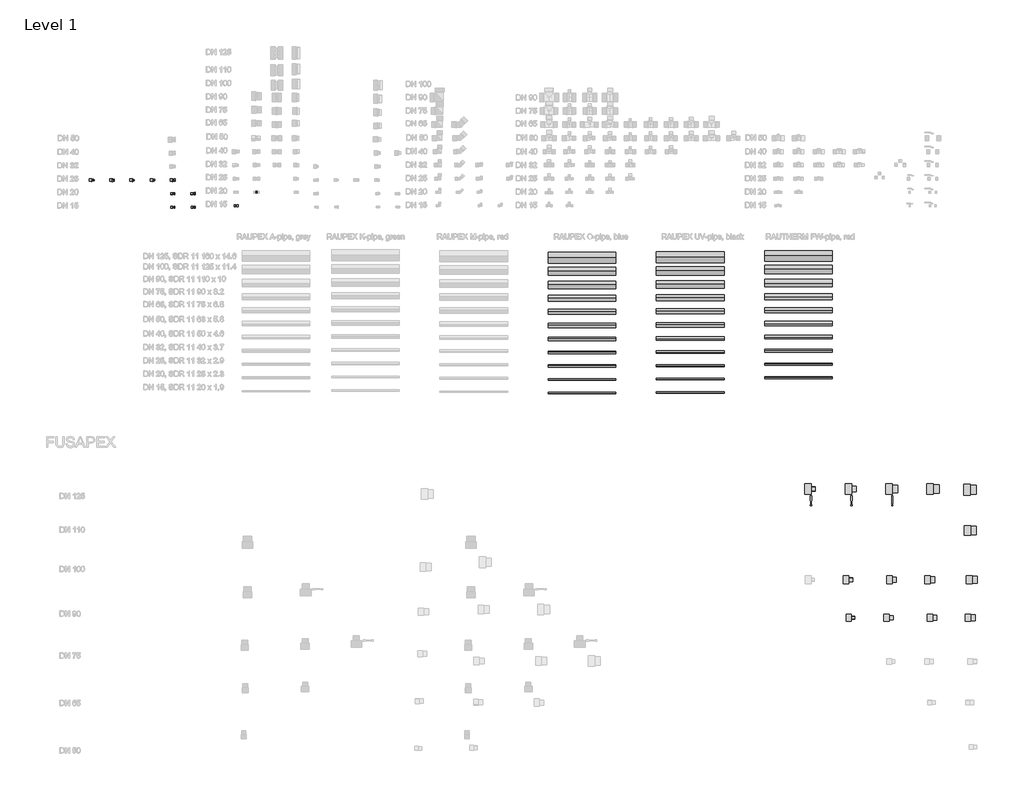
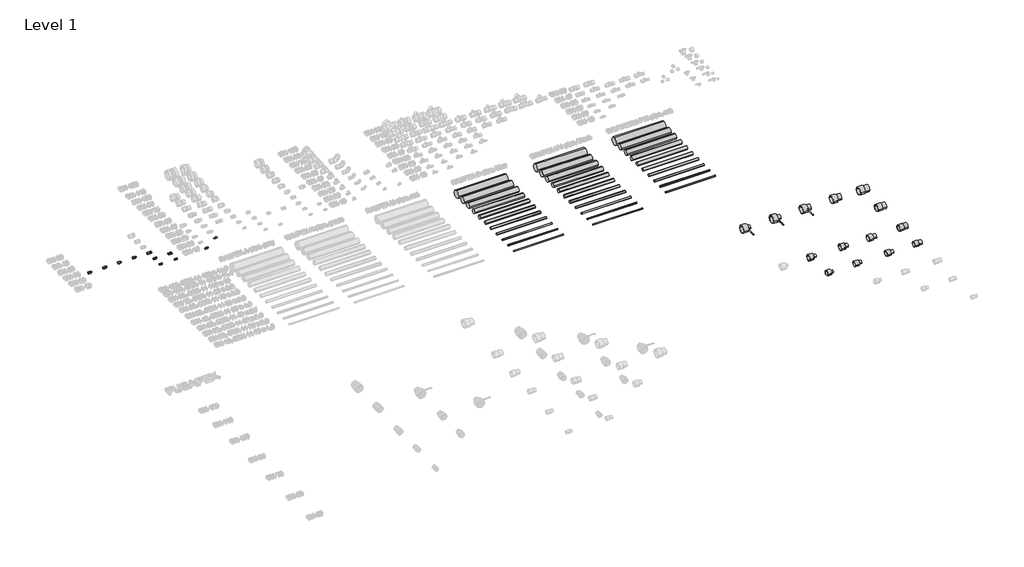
# One storey, part 2 of 16: 36 pipe fittings, 32 pipe segments.
"""IFC4 building model written with IfcOpenShell, lengths in millimetres."""

from ifc_helpers import new_model, si_unit, point, frame, frame_2d, origin, place, context, project, spatial, circle_curve, trimmed, segment, composite_curve, outline, extrude, transform, mapped, element, save
from components import adapter_taper_sdr11_24_lx_bbcb70a0, adapter_taper_sdr11_24_lx_71f6f1ea, adapter_taper_sdr11_60_lx_8a038b16, adapter_taper_sdr11_60_lx_c4b14268, adapter_with_union_nut_sdr11_a_union_nut_lx_fcff2328, adapter_with_union_nut_sdr11_a_union_nut_lx_60ab4ac3, adapter_with_union_nut_sdr11_a_union_nut_lx_61cef82c, adapter_with_union_nut_sdr11_a_union_nut_lx_7cd68c92, adapter_with_union_nut_sdr11_a_union_nut_lx_64a525c3, coupling_union_0bb615ef, coupling_union_24488497, r_bfb9c921, r_69f262a2, r_cca8e6ca, r_d1f8ca76, r_961efe01, r_9be9cc2b, r_697b0825, r_a358cfd3, r_c27c096f, r_0da97ad1, r_8749512e, r_4a3a0498, r_e99f7dad, r_1e384c2f, sleeve_lx_11_2e170aa1, sleeve_lx_11_3fcb8560, sleeve_lx_11_f19e3dbf

model = new_model("IFC4")

# Units and contexts
model_context = context("Model", 3, world=origin())
ifc_project = project(units=[si_unit("LENGTHUNIT", "METRE", prefix="MILLI")], contexts=[model_context])

# Site, building, storey
site = spatial("IfcSite", under=ifc_project)
building = spatial("IfcBuilding", under=site)
storey = spatial("IfcBuildingStorey", under=building, Name="Level 1", Elevation=0.0)

# Pipe fittings
placement = place(None, origin())
adapter_taper_sdr11_24_lx_shape = adapter_taper_sdr11_24_lx_bbcb70a0(model_context)
element("IfcPipeFitting", 1, ObjectType="Adapter taper SDR11 LX 24 Grad : Adapter taper SDR11 24 LX", at=placement, inside=storey, context=model_context, shape_type="MappedRepresentation", body=[
    mapped(adapter_taper_sdr11_24_lx_shape, transform((9376.3241815, 819.0534305, 0.0), x_axis=(1.0, 0.0, 0.0), y_axis=(0.0, 1.0, 0.0), z_axis=(0.0, 0.0, 1.0))),
])
adapter_taper_sdr11_24_lx_2_shape = adapter_taper_sdr11_24_lx_71f6f1ea(model_context)
element("IfcPipeFitting", 2, ObjectType="Adapter taper SDR11 LX 24 Grad : Adapter taper SDR11 24 LX", at=placement, inside=storey, context=model_context, shape_type="MappedRepresentation", body=[
    mapped(adapter_taper_sdr11_24_lx_2_shape, transform((9676.3241815, 819.0534305, 0.0), x_axis=(1.0, 0.0, 0.0), y_axis=(0.0, 1.0, 0.0), z_axis=(0.0, 0.0, 1.0))),
])
adapter_taper_sdr11_60_lx_shape = adapter_taper_sdr11_60_lx_8a038b16(model_context)
element("IfcPipeFitting", 3, ObjectType="Adapter taper SDR11 LX 60 Grad : Adapter taper SDR11 60 LX", at=placement, inside=storey, context=model_context, shape_type="MappedRepresentation", body=[
    mapped(adapter_taper_sdr11_60_lx_shape, transform((10276.3241815, 819.0534305, 0.0), x_axis=(1.0, 0.0, 0.0), y_axis=(0.0, 1.0, 0.0), z_axis=(0.0, 0.0, 1.0))),
])
adapter_taper_sdr11_60_lx_2_shape = adapter_taper_sdr11_60_lx_c4b14268(model_context)
element("IfcPipeFitting", 4, ObjectType="Adapter taper SDR11 LX 60 Grad : Adapter taper SDR11 60 LX", at=placement, inside=storey, context=model_context, shape_type="MappedRepresentation", body=[
    mapped(adapter_taper_sdr11_60_lx_2_shape, transform((9976.3241815, 819.0534305, 0.0), x_axis=(1.0, 0.0, 0.0), y_axis=(0.0, 1.0, 0.0), z_axis=(0.0, 0.0, 1.0))),
])
adapter_with_union_nut_sdr11_a_union_nut_lx_shape = adapter_with_union_nut_sdr11_a_union_nut_lx_fcff2328(model_context)
element("IfcPipeFitting", 5, ObjectType="Adapter with union nut SDR11 : A union nut LX", at=placement, inside=storey, context=model_context, shape_type="MappedRepresentation", body=[
    mapped(adapter_with_union_nut_sdr11_a_union_nut_lx_shape, transform((10876.3241815, 419.0534305, 0.0), x_axis=(1.0, 0.0, 0.0), y_axis=(0.0, 1.0, 0.0), z_axis=(0.0, 0.0, 1.0))),
])
adapter_with_union_nut_sdr11_a_union_nut_lx_2_shape = adapter_with_union_nut_sdr11_a_union_nut_lx_60ab4ac3(model_context)
element("IfcPipeFitting", 6, ObjectType="Adapter with union nut SDR11 : A union nut LX", at=placement, inside=storey, context=model_context, shape_type="MappedRepresentation", body=[
    mapped(adapter_with_union_nut_sdr11_a_union_nut_lx_2_shape, transform((10576.3241815, 419.0534305, 0.0), x_axis=(1.0, 0.0, 0.0), y_axis=(0.0, 1.0, 0.0), z_axis=(0.0, 0.0, 1.0))),
])
adapter_with_union_nut_sdr11_a_union_nut_lx_3_shape = adapter_with_union_nut_sdr11_a_union_nut_lx_61cef82c(model_context)
element("IfcPipeFitting", 7, ObjectType="Adapter with union nut SDR11 : A union nut LX", at=placement, inside=storey, context=model_context, shape_type="MappedRepresentation", body=[
    mapped(adapter_with_union_nut_sdr11_a_union_nut_lx_3_shape, transform((10576.3241815, 619.0534305, 0.0), x_axis=(1.0, 0.0, 0.0), y_axis=(0.0, 1.0, 0.0), z_axis=(0.0, 0.0, 1.0))),
])
adapter_with_union_nut_sdr11_a_union_nut_lx_4_shape = adapter_with_union_nut_sdr11_a_union_nut_lx_7cd68c92(model_context)
element("IfcPipeFitting", 8, ObjectType="Adapter with union nut SDR11 : A union nut LX", at=placement, inside=storey, context=model_context, shape_type="MappedRepresentation", body=[
    mapped(adapter_with_union_nut_sdr11_a_union_nut_lx_4_shape, transform((10876.3241815, 619.0534305, 0.0), x_axis=(1.0, 0.0, 0.0), y_axis=(0.0, 1.0, 0.0), z_axis=(0.0, 0.0, 1.0))),
])
adapter_with_union_nut_sdr11_a_union_nut_lx_5_shape = adapter_with_union_nut_sdr11_a_union_nut_lx_64a525c3(model_context)
element("IfcPipeFitting", 9, ObjectType="Adapter with union nut SDR11 : A union nut LX", at=placement, inside=storey, context=model_context, shape_type="MappedRepresentation", body=[
    mapped(adapter_with_union_nut_sdr11_a_union_nut_lx_5_shape, transform((10576.3241815, 819.0534305, 0.0), x_axis=(1.0, 0.0, 0.0), y_axis=(0.0, 1.0, 0.0), z_axis=(0.0, 0.0, 1.0))),
])
coupling_union_shape = coupling_union_0bb615ef(model_context)
element("IfcPipeFitting", 10, ObjectType="Coupling union : C EQ SDR11 LX", at=placement, inside=storey, context=model_context, shape_type="MappedRepresentation", body=[
    mapped(coupling_union_shape, transform((11503.1112925, 440.5489138, 0.0), x_axis=(1.0, 0.0, 0.0), y_axis=(0.0, 1.0, 0.0), z_axis=(0.0, 0.0, 1.0))),
])
coupling_union_2_shape = coupling_union_24488497(model_context)
element("IfcPipeFitting", 11, ObjectType="Coupling union : C EQ SDR11 LX", at=placement, inside=storey, context=model_context, shape_type="MappedRepresentation", body=[
    mapped(coupling_union_2_shape, transform((11803.1112925, 640.5489138, 0.0), x_axis=(1.0, 0.0, 0.0), y_axis=(0.0, 1.0, 0.0), z_axis=(0.0, 0.0, 1.0))),
])
r_shape = r_bfb9c921(model_context)
element("IfcPipeFitting", 12, ObjectType="FUSAPEX reducer : R", at=placement, inside=storey, context=model_context, shape_type="MappedRepresentation", body=[
    mapped(r_shape, transform((20593.244899, -5647.0116377, 0.0), x_axis=(1.0, 0.0, 0.0), y_axis=(0.0, 1.0, 0.0), z_axis=(0.0, 0.0, 1.0))),
])
r_2_shape = r_69f262a2(model_context)
element("IfcPipeFitting", 13, ObjectType="FUSAPEX reducer : R", at=placement, inside=storey, context=model_context, shape_type="MappedRepresentation", body=[
    mapped(r_2_shape, transform((21153.244899, -5647.0116377, 0.0), x_axis=(1.0, 0.0, 0.0), y_axis=(0.0, 1.0, 0.0), z_axis=(0.0, 0.0, 1.0))),
])
r_3_shape = r_cca8e6ca(model_context)
element("IfcPipeFitting", 14, ObjectType="FUSAPEX reducer : R", at=placement, inside=storey, context=model_context, shape_type="MappedRepresentation", body=[
    mapped(r_3_shape, transform((21793.244899, -5647.0116377, 0.0), x_axis=(1.0, 0.0, 0.0), y_axis=(0.0, 1.0, 0.0), z_axis=(0.0, 0.0, 1.0))),
])
r_4_shape = r_d1f8ca76(model_context)
element("IfcPipeFitting", 15, ObjectType="FUSAPEX reducer : R", at=placement, inside=storey, context=model_context, shape_type="MappedRepresentation", body=[
    mapped(r_4_shape, transform((22353.244899, -5647.0116377, 0.0), x_axis=(1.0, 0.0, 0.0), y_axis=(0.0, 1.0, 0.0), z_axis=(0.0, 0.0, 1.0))),
])
r_5_shape = r_961efe01(model_context)
element("IfcPipeFitting", 16, ObjectType="FUSAPEX reducer : R", at=placement, inside=storey, context=model_context, shape_type="MappedRepresentation", body=[
    mapped(r_5_shape, transform((20556.3378467, -5084.3927472, 0.0), x_axis=(1.0, 0.0, 0.0), y_axis=(0.0, 1.0, 0.0), z_axis=(0.0, 0.0, 1.0))),
])
r_6_shape = r_9be9cc2b(model_context)
element("IfcPipeFitting", 17, ObjectType="FUSAPEX reducer : R", at=placement, inside=storey, context=model_context, shape_type="MappedRepresentation", body=[
    mapped(r_6_shape, transform((21196.3378467, -5084.3927472, 0.0), x_axis=(1.0, 0.0, 0.0), y_axis=(0.0, 1.0, 0.0), z_axis=(0.0, 0.0, 1.0))),
])
r_7_shape = r_697b0825(model_context)
element("IfcPipeFitting", 18, ObjectType="FUSAPEX reducer : R", at=placement, inside=storey, context=model_context, shape_type="MappedRepresentation", body=[
    mapped(r_7_shape, transform((21756.3378467, -5084.3927472, 0.0), x_axis=(1.0, 0.0, 0.0), y_axis=(0.0, 1.0, 0.0), z_axis=(0.0, 0.0, 1.0))),
])
r_8_shape = r_a358cfd3(model_context)
element("IfcPipeFitting", 19, ObjectType="FUSAPEX reducer : R", at=placement, inside=storey, context=model_context, shape_type="MappedRepresentation", body=[
    mapped(r_8_shape, transform((22376.3378467, -5084.3927472, 0.0), x_axis=(1.0, 0.0, 0.0), y_axis=(0.0, -1.0, 0.0), z_axis=(0.0, 0.0, -1.0))),
])
r_9_shape = r_c27c096f(model_context)
element("IfcPipeFitting", 20, ObjectType="FUSAPEX reducer : R", at=placement, inside=storey, context=model_context, shape_type="MappedRepresentation", body=[
    mapped(r_9_shape, transform((22353.3151183, -4358.2546889, 0.0), x_axis=(1.0, 0.0, 0.0), y_axis=(0.0, 1.0, 0.0), z_axis=(0.0, 0.0, 1.0))),
])
r_10_shape = r_0da97ad1(model_context)
element("IfcPipeFitting", 21, ObjectType="FUSAPEX reducer : R", at=placement, inside=storey, context=model_context, shape_type="MappedRepresentation", body=[
    mapped(r_10_shape, transform((19996.3378467, -3744.3927472, 0.0), x_axis=(1.0, 0.0, 0.0), y_axis=(0.0, 1.0, 0.0), z_axis=(0.0, 0.0, 1.0))),
])
r_11_shape = r_8749512e(model_context)
element("IfcPipeFitting", 22, ObjectType="FUSAPEX reducer : R", at=placement, inside=storey, context=model_context, shape_type="MappedRepresentation", body=[
    mapped(r_11_shape, transform((20596.3378467, -3744.3927472, 0.0), x_axis=(1.0, 0.0, 0.0), y_axis=(0.0, 1.0, 0.0), z_axis=(0.0, 0.0, 1.0))),
])
r_12_shape = r_4a3a0498(model_context)
element("IfcPipeFitting", 23, ObjectType="FUSAPEX reducer : R", at=placement, inside=storey, context=model_context, shape_type="MappedRepresentation", body=[
    mapped(r_12_shape, transform((21196.3378467, -3744.3927472, 0.0), x_axis=(1.0, 0.0, 0.0), y_axis=(0.0, 1.0, 0.0), z_axis=(0.0, 0.0, 1.0))),
])
r_13_shape = r_e99f7dad(model_context)
element("IfcPipeFitting", 24, ObjectType="FUSAPEX reducer : R", at=placement, inside=storey, context=model_context, shape_type="MappedRepresentation", body=[
    mapped(r_13_shape, transform((21804.622118, -3742.6770184, 0.0), x_axis=(1.0, 0.0, 0.0), y_axis=(0.0, 1.0, 0.0), z_axis=(0.0, 0.0, 1.0))),
])
r_14_shape = r_1e384c2f(model_context)
element("IfcPipeFitting", 25, ObjectType="FUSAPEX reducer : R", at=placement, inside=storey, context=model_context, shape_type="MappedRepresentation", body=[
    mapped(r_14_shape, transform((22346.0987653, -3754.8236077, 0.0), x_axis=(1.0, 0.0, 0.0), y_axis=(0.0, 1.0, 0.0), z_axis=(0.0, 0.0, 1.0))),
])
sleeve_lx_11_shape = sleeve_lx_11_2e170aa1(model_context)
element("IfcPipeFitting", 26, ObjectType="Sleeve : LX 11", at=placement, inside=storey, context=model_context, shape_type="MappedRepresentation", body=[
    mapped(sleeve_lx_11_shape, transform((9332.6241815, 819.0534305, 0.0), x_axis=(1.0, 0.0, 0.0), y_axis=(0.0, 1.0, 0.0), z_axis=(0.0, 0.0, 1.0))),
])
element("IfcPipeFitting", 27, ObjectType="Sleeve : LX 11", at=placement, inside=storey, context=model_context, shape_type="MappedRepresentation", body=[
    mapped(sleeve_lx_11_shape, transform((9632.4241815, 819.0534305, 0.0), x_axis=(1.0, 0.0, 0.0), y_axis=(0.0, 1.0, 0.0), z_axis=(0.0, 0.0, 1.0))),
])
element("IfcPipeFitting", 28, ObjectType="Sleeve : LX 11", at=placement, inside=storey, context=model_context, shape_type="MappedRepresentation", body=[
    mapped(sleeve_lx_11_shape, transform((10232.4241815, 819.0534305, 0.0), x_axis=(1.0, 0.0, 0.0), y_axis=(0.0, 1.0, 0.0), z_axis=(0.0, 0.0, 1.0))),
])
element("IfcPipeFitting", 29, ObjectType="Sleeve : LX 11", at=placement, inside=storey, context=model_context, shape_type="MappedRepresentation", body=[
    mapped(sleeve_lx_11_shape, transform((9932.4241815, 819.0534305, 0.0), x_axis=(1.0, 0.0, 0.0), y_axis=(0.0, 1.0, 0.0), z_axis=(0.0, 0.0, 1.0))),
])
element("IfcPipeFitting", 30, ObjectType="Sleeve : LX 11", at=placement, inside=storey, context=model_context, shape_type="MappedRepresentation", body=[
    mapped(sleeve_lx_11_shape, transform((10525.3241815, 819.0534305, 0.0), x_axis=(1.0, 0.0, 0.0), y_axis=(0.0, 1.0, 0.0), z_axis=(0.0, 0.0, 1.0))),
])
sleeve_lx_11_2_shape = sleeve_lx_11_3fcb8560(model_context)
element("IfcPipeFitting", 31, ObjectType="Sleeve : LX 11", at=placement, inside=storey, context=model_context, shape_type="MappedRepresentation", body=[
    mapped(sleeve_lx_11_2_shape, transform((10538.7241815, 419.0534305, 0.0), x_axis=(1.0, 0.0, 0.0), y_axis=(0.0, 1.0, 0.0), z_axis=(0.0, 0.0, 1.0))),
])
element("IfcPipeFitting", 32, ObjectType="Sleeve : LX 11", at=placement, inside=storey, context=model_context, shape_type="MappedRepresentation", body=[
    mapped(sleeve_lx_11_2_shape, transform((10842.3241815, 419.0534305, 0.0), x_axis=(1.0, 0.0, 0.0), y_axis=(0.0, 1.0, 0.0), z_axis=(0.0, 0.0, 1.0))),
])
element("IfcPipeFitting", 33, ObjectType="Sleeve : LX 11", at=placement, inside=storey, context=model_context, shape_type="MappedRepresentation", body=[
    mapped(sleeve_lx_11_2_shape, transform((11472.1112925, 440.5489138, 0.0), x_axis=(1.0, 0.0, 0.0), y_axis=(0.0, 1.0, 0.0), z_axis=(0.0, 0.0, 1.0))),
])
element("IfcPipeFitting", 34, ObjectType="Sleeve : LX 11", at=placement, inside=storey, context=model_context, shape_type="MappedRepresentation", body=[
    mapped(sleeve_lx_11_2_shape, transform((11514.1112925, 440.5489138, 0.0), x_axis=(1.0, 0.0, 0.0), y_axis=(0.0, 1.0, 0.0), z_axis=(0.0, 0.0, 1.0))),
])
sleeve_lx_11_3_shape = sleeve_lx_11_f19e3dbf(model_context)
element("IfcPipeFitting", 35, ObjectType="Sleeve : LX 11", at=placement, inside=storey, context=model_context, shape_type="MappedRepresentation", body=[
    mapped(sleeve_lx_11_3_shape, transform((10534.5241815, 619.0534305, 0.0), x_axis=(1.0, 0.0, 0.0), y_axis=(0.0, 1.0, 0.0), z_axis=(0.0, 0.0, 1.0))),
])
element("IfcPipeFitting", 36, ObjectType="Sleeve : LX 11", at=placement, inside=storey, context=model_context, shape_type="MappedRepresentation", body=[
    mapped(sleeve_lx_11_3_shape, transform((10833.6241815, 619.0534305, 0.0), x_axis=(1.0, 0.0, 0.0), y_axis=(0.0, 1.0, 0.0), z_axis=(0.0, 0.0, 1.0))),
])

# Pipe segments
element("IfcPipeSegment", 37, ObjectType="RAUPEX-O Rohr, SDR11, blau bar", at=placement, inside=storey, context=model_context, shape_type="SweptSolid", body=[
    extrude(outline(composite_curve([segment(trimmed(circle_curve(frame_2d((-2326.9373535, 0.0)), 10.0), [point((-2336.9373535, 0.0))], [point((-2326.9373535, 10.0))], False, "CARTESIAN"), True, "CONTINUOUS"), segment(trimmed(circle_curve(frame_2d((-2326.9373535, 0.0)), 10.0), [point((-2326.9373535, 10.0))], [point((-2316.9373535, 0.0))], False, "CARTESIAN"), True, "CONTINUOUS"), segment(trimmed(circle_curve(frame_2d((-2326.9373535, 0.0)), 10.0), [point((-2316.9373535, 0.0))], [point((-2326.9373535, -10.0))], False, "CARTESIAN"), True, "CONTINUOUS"), segment(trimmed(circle_curve(frame_2d((-2326.9373535, 0.0)), 10.0), [point((-2326.9373535, -10.0))], [point((-2336.9373535, 0.0))], False, "CARTESIAN"), True, "CONTINUOUS")], self_intersect=False)), frame((16112.3595402, 0.0, 0.0), z_axis=(1.0, 0.0, 0.0), x_axis=(0.0, 1.0, 0.0)), (0.0, 0.0, 1.0), 1000.0),
])
element("IfcPipeSegment", 38, ObjectType="RAUPEX-O Rohr, SDR11, blau bar", at=placement, inside=storey, context=model_context, shape_type="SweptSolid", body=[
    extrude(outline(composite_curve([segment(trimmed(circle_curve(frame_2d((-2126.9373535, 0.0)), 12.5), [point((-2139.4373535, 0.0))], [point((-2126.9373535, 12.5))], False, "CARTESIAN"), True, "CONTINUOUS"), segment(trimmed(circle_curve(frame_2d((-2126.9373535, 0.0)), 12.5), [point((-2126.9373535, 12.5))], [point((-2114.4373535, 0.0))], False, "CARTESIAN"), True, "CONTINUOUS"), segment(trimmed(circle_curve(frame_2d((-2126.9373535, 0.0)), 12.5), [point((-2114.4373535, 0.0))], [point((-2126.9373535, -12.5))], False, "CARTESIAN"), True, "CONTINUOUS"), segment(trimmed(circle_curve(frame_2d((-2126.9373535, 0.0)), 12.5), [point((-2126.9373535, -12.5))], [point((-2139.4373535, 0.0))], False, "CARTESIAN"), True, "CONTINUOUS")], self_intersect=False)), frame((16112.3595402, 0.0, 0.0), z_axis=(1.0, 0.0, 0.0), x_axis=(0.0, 1.0, 0.0)), (0.0, 0.0, 1.0), 1000.0),
])
element("IfcPipeSegment", 39, ObjectType="RAUPEX-O Rohr, SDR11, blau bar", at=placement, inside=storey, context=model_context, shape_type="SweptSolid", body=[
    extrude(outline(composite_curve([segment(trimmed(circle_curve(frame_2d((-1926.9373535, 0.0)), 16.0), [point((-1942.9373535, 0.0))], [point((-1926.9373535, 16.0))], False, "CARTESIAN"), True, "CONTINUOUS"), segment(trimmed(circle_curve(frame_2d((-1926.9373535, 0.0)), 16.0), [point((-1926.9373535, 16.0))], [point((-1910.9373535, 0.0))], False, "CARTESIAN"), True, "CONTINUOUS"), segment(trimmed(circle_curve(frame_2d((-1926.9373535, 0.0)), 16.0), [point((-1910.9373535, 0.0))], [point((-1926.9373535, -16.0))], False, "CARTESIAN"), True, "CONTINUOUS"), segment(trimmed(circle_curve(frame_2d((-1926.9373535, 0.0)), 16.0), [point((-1926.9373535, -16.0))], [point((-1942.9373535, 0.0))], False, "CARTESIAN"), True, "CONTINUOUS")], self_intersect=False)), frame((16112.3595402, 0.0, 0.0), z_axis=(1.0, 0.0, 0.0), x_axis=(0.0, 1.0, 0.0)), (0.0, 0.0, 1.0), 1000.0),
])
element("IfcPipeSegment", 40, ObjectType="RAUPEX-O Rohr, SDR11, blau bar", at=placement, inside=storey, context=model_context, shape_type="SweptSolid", body=[
    extrude(outline(composite_curve([segment(trimmed(circle_curve(frame_2d((-1726.9373535, 0.0)), 20.0), [point((-1746.9373535, 0.0))], [point((-1726.9373535, 20.0))], False, "CARTESIAN"), True, "CONTINUOUS"), segment(trimmed(circle_curve(frame_2d((-1726.9373535, 0.0)), 20.0), [point((-1726.9373535, 20.0))], [point((-1706.9373535, 0.0))], False, "CARTESIAN"), True, "CONTINUOUS"), segment(trimmed(circle_curve(frame_2d((-1726.9373535, 0.0)), 20.0), [point((-1706.9373535, 0.0))], [point((-1726.9373535, -20.0))], False, "CARTESIAN"), True, "CONTINUOUS"), segment(trimmed(circle_curve(frame_2d((-1726.9373535, 0.0)), 20.0), [point((-1726.9373535, -20.0))], [point((-1746.9373535, 0.0))], False, "CARTESIAN"), True, "CONTINUOUS")], self_intersect=False)), frame((16112.3595402, 0.0, 0.0), z_axis=(1.0, 0.0, 0.0), x_axis=(0.0, 1.0, 0.0)), (0.0, 0.0, 1.0), 1000.0),
])
element("IfcPipeSegment", 41, ObjectType="RAUPEX-O Rohr, SDR11, blau bar", at=placement, inside=storey, context=model_context, shape_type="SweptSolid", body=[
    extrude(outline(composite_curve([segment(trimmed(circle_curve(frame_2d((-1526.9373535, 0.0)), 25.0), [point((-1551.9373535, 0.0))], [point((-1526.9373535, 25.0))], False, "CARTESIAN"), True, "CONTINUOUS"), segment(trimmed(circle_curve(frame_2d((-1526.9373535, 0.0)), 25.0), [point((-1526.9373535, 25.0))], [point((-1501.9373535, 0.0))], False, "CARTESIAN"), True, "CONTINUOUS"), segment(trimmed(circle_curve(frame_2d((-1526.9373535, 0.0)), 25.0), [point((-1501.9373535, 0.0))], [point((-1526.9373535, -25.0))], False, "CARTESIAN"), True, "CONTINUOUS"), segment(trimmed(circle_curve(frame_2d((-1526.9373535, 0.0)), 25.0), [point((-1526.9373535, -25.0))], [point((-1551.9373535, 0.0))], False, "CARTESIAN"), True, "CONTINUOUS")], self_intersect=False)), frame((16112.3595402, 0.0, 0.0), z_axis=(1.0, 0.0, 0.0), x_axis=(0.0, 1.0, 0.0)), (0.0, 0.0, 1.0), 1000.0),
])
element("IfcPipeSegment", 42, ObjectType="RAUPEX-O Rohr, SDR11, blau bar", at=placement, inside=storey, context=model_context, shape_type="SweptSolid", body=[
    extrude(outline(composite_curve([segment(trimmed(circle_curve(frame_2d((-1326.9373535, 0.0)), 31.5), [point((-1358.4373535, 0.0))], [point((-1326.9373535, 31.5))], False, "CARTESIAN"), True, "CONTINUOUS"), segment(trimmed(circle_curve(frame_2d((-1326.9373535, 0.0)), 31.5), [point((-1326.9373535, 31.5))], [point((-1295.4373535, 0.0))], False, "CARTESIAN"), True, "CONTINUOUS"), segment(trimmed(circle_curve(frame_2d((-1326.9373535, 0.0)), 31.5), [point((-1295.4373535, 0.0))], [point((-1326.9373535, -31.5))], False, "CARTESIAN"), True, "CONTINUOUS"), segment(trimmed(circle_curve(frame_2d((-1326.9373535, 0.0)), 31.5), [point((-1326.9373535, -31.5))], [point((-1358.4373535, 0.0))], False, "CARTESIAN"), True, "CONTINUOUS")], self_intersect=False)), frame((16112.3595402, 0.0, 0.0), z_axis=(1.0, 0.0, 0.0), x_axis=(0.0, 1.0, 0.0)), (0.0, 0.0, 1.0), 1000.0),
])
element("IfcPipeSegment", 43, ObjectType="RAUPEX-O Rohr, SDR11, blau bar", at=placement, inside=storey, context=model_context, shape_type="SweptSolid", body=[
    extrude(outline(composite_curve([segment(trimmed(circle_curve(frame_2d((-1126.9373535, 0.0)), 37.5), [point((-1164.4373535, 0.0))], [point((-1126.9373535, 37.5))], False, "CARTESIAN"), True, "CONTINUOUS"), segment(trimmed(circle_curve(frame_2d((-1126.9373535, 0.0)), 37.5), [point((-1126.9373535, 37.5))], [point((-1089.4373535, 0.0))], False, "CARTESIAN"), True, "CONTINUOUS"), segment(trimmed(circle_curve(frame_2d((-1126.9373535, 0.0)), 37.5), [point((-1089.4373535, 0.0))], [point((-1126.9373535, -37.5))], False, "CARTESIAN"), True, "CONTINUOUS"), segment(trimmed(circle_curve(frame_2d((-1126.9373535, 0.0)), 37.5), [point((-1126.9373535, -37.5))], [point((-1164.4373535, 0.0))], False, "CARTESIAN"), True, "CONTINUOUS")], self_intersect=False)), frame((16112.3595402, 0.0, 0.0), z_axis=(1.0, 0.0, 0.0), x_axis=(0.0, 1.0, 0.0)), (0.0, 0.0, 1.0), 1000.0),
])
element("IfcPipeSegment", 44, ObjectType="RAUPEX-O Rohr, SDR11, blau bar", at=placement, inside=storey, context=model_context, shape_type="SweptSolid", body=[
    extrude(outline(composite_curve([segment(trimmed(circle_curve(frame_2d((-926.9373535, 0.0)), 45.0), [point((-971.9373535, 0.0))], [point((-926.9373535, 45.0))], False, "CARTESIAN"), True, "CONTINUOUS"), segment(trimmed(circle_curve(frame_2d((-926.9373535, 0.0)), 45.0), [point((-926.9373535, 45.0))], [point((-881.9373535, 0.0))], False, "CARTESIAN"), True, "CONTINUOUS"), segment(trimmed(circle_curve(frame_2d((-926.9373535, 0.0)), 45.0), [point((-881.9373535, 0.0))], [point((-926.9373535, -45.0))], False, "CARTESIAN"), True, "CONTINUOUS"), segment(trimmed(circle_curve(frame_2d((-926.9373535, 0.0)), 45.0), [point((-926.9373535, -45.0))], [point((-971.9373535, 0.0))], False, "CARTESIAN"), True, "CONTINUOUS")], self_intersect=False)), frame((16112.3595402, 0.0, 0.0), z_axis=(1.0, 0.0, 0.0), x_axis=(0.0, 1.0, 0.0)), (0.0, 0.0, 1.0), 1000.0),
])
element("IfcPipeSegment", 45, ObjectType="RAUPEX-O Rohr, SDR11, blau bar", at=placement, inside=storey, context=model_context, shape_type="SweptSolid", body=[
    extrude(outline(composite_curve([segment(trimmed(circle_curve(frame_2d((-726.9373535, 0.0)), 55.0), [point((-781.9373535, 0.0))], [point((-726.9373535, 55.0))], False, "CARTESIAN"), True, "CONTINUOUS"), segment(trimmed(circle_curve(frame_2d((-726.9373535, 0.0)), 55.0), [point((-726.9373535, 55.0))], [point((-671.9373535, 0.0))], False, "CARTESIAN"), True, "CONTINUOUS"), segment(trimmed(circle_curve(frame_2d((-726.9373535, 0.0)), 55.0), [point((-671.9373535, 0.0))], [point((-726.9373535, -55.0))], False, "CARTESIAN"), True, "CONTINUOUS"), segment(trimmed(circle_curve(frame_2d((-726.9373535, 0.0)), 55.0), [point((-726.9373535, -55.0))], [point((-781.9373535, 0.0))], False, "CARTESIAN"), True, "CONTINUOUS")], self_intersect=False)), frame((16112.3595402, 0.0, 0.0), z_axis=(1.0, 0.0, 0.0), x_axis=(0.0, 1.0, 0.0)), (0.0, 0.0, 1.0), 1000.0),
])
element("IfcPipeSegment", 46, ObjectType="RAUPEX-O Rohr, SDR11, blau bar", at=placement, inside=storey, context=model_context, shape_type="SweptSolid", body=[
    extrude(outline(composite_curve([segment(trimmed(circle_curve(frame_2d((-526.9373535, 0.0)), 62.5), [point((-589.4373535, 0.0))], [point((-526.9373535, 62.5))], False, "CARTESIAN"), True, "CONTINUOUS"), segment(trimmed(circle_curve(frame_2d((-526.9373535, 0.0)), 62.5), [point((-526.9373535, 62.5))], [point((-464.4373535, 0.0))], False, "CARTESIAN"), True, "CONTINUOUS"), segment(trimmed(circle_curve(frame_2d((-526.9373535, 0.0)), 62.5), [point((-464.4373535, 0.0))], [point((-526.9373535, -62.5))], False, "CARTESIAN"), True, "CONTINUOUS"), segment(trimmed(circle_curve(frame_2d((-526.9373535, 0.0)), 62.5), [point((-526.9373535, -62.5))], [point((-589.4373535, 0.0))], False, "CARTESIAN"), True, "CONTINUOUS")], self_intersect=False)), frame((16112.3595402, 0.0, 0.0), z_axis=(1.0, 0.0, 0.0), x_axis=(0.0, 1.0, 0.0)), (0.0, 0.0, 1.0), 1000.0),
])
element("IfcPipeSegment", 47, ObjectType="RAUPEX-O Rohr, SDR11, blau bar", at=placement, inside=storey, context=model_context, shape_type="SweptSolid", body=[
    extrude(outline(composite_curve([segment(trimmed(circle_curve(frame_2d((-326.9373535, 0.0)), 80.0), [point((-406.9373535, 0.0))], [point((-326.9373535, 80.0))], False, "CARTESIAN"), True, "CONTINUOUS"), segment(trimmed(circle_curve(frame_2d((-326.9373535, 0.0)), 80.0), [point((-326.9373535, 80.0))], [point((-246.9373535, 0.0))], False, "CARTESIAN"), True, "CONTINUOUS"), segment(trimmed(circle_curve(frame_2d((-326.9373535, 0.0)), 80.0), [point((-246.9373535, 0.0))], [point((-326.9373535, -80.0))], False, "CARTESIAN"), True, "CONTINUOUS"), segment(trimmed(circle_curve(frame_2d((-326.9373535, 0.0)), 80.0), [point((-326.9373535, -80.0))], [point((-406.9373535, 0.0))], False, "CARTESIAN"), True, "CONTINUOUS")], self_intersect=False)), frame((16112.3595402, 0.0, 0.0), z_axis=(1.0, 0.0, 0.0), x_axis=(0.0, 1.0, 0.0)), (0.0, 0.0, 1.0), 1000.0),
])
element("IfcPipeSegment", 48, ObjectType="RAUPEX-UV Rohr, SDR11, schwarz bar", at=placement, inside=storey, context=model_context, shape_type="SweptSolid", body=[
    extrude(outline(composite_curve([segment(trimmed(circle_curve(frame_2d((-2320.9373535, 0.0)), 10.0), [point((-2330.9373535, 0.0))], [point((-2320.9373535, 10.0))], False, "CARTESIAN"), True, "CONTINUOUS"), segment(trimmed(circle_curve(frame_2d((-2320.9373535, 0.0)), 10.0), [point((-2320.9373535, 10.0))], [point((-2310.9373535, 0.0))], False, "CARTESIAN"), True, "CONTINUOUS"), segment(trimmed(circle_curve(frame_2d((-2320.9373535, 0.0)), 10.0), [point((-2310.9373535, 0.0))], [point((-2320.9373535, -10.0))], False, "CARTESIAN"), True, "CONTINUOUS"), segment(trimmed(circle_curve(frame_2d((-2320.9373535, 0.0)), 10.0), [point((-2320.9373535, -10.0))], [point((-2330.9373535, 0.0))], False, "CARTESIAN"), True, "CONTINUOUS")], self_intersect=False)), frame((17712.3595402, 0.0, 0.0), z_axis=(1.0, 0.0, 0.0), x_axis=(0.0, 1.0, 0.0)), (0.0, 0.0, 1.0), 1000.0),
])
element("IfcPipeSegment", 49, ObjectType="RAUPEX-UV Rohr, SDR11, schwarz bar", at=placement, inside=storey, context=model_context, shape_type="SweptSolid", body=[
    extrude(outline(composite_curve([segment(trimmed(circle_curve(frame_2d((-2120.9373535, 0.0)), 12.5), [point((-2133.4373535, 0.0))], [point((-2120.9373535, 12.5))], False, "CARTESIAN"), True, "CONTINUOUS"), segment(trimmed(circle_curve(frame_2d((-2120.9373535, 0.0)), 12.5), [point((-2120.9373535, 12.5))], [point((-2108.4373535, 0.0))], False, "CARTESIAN"), True, "CONTINUOUS"), segment(trimmed(circle_curve(frame_2d((-2120.9373535, 0.0)), 12.5), [point((-2108.4373535, 0.0))], [point((-2120.9373535, -12.5))], False, "CARTESIAN"), True, "CONTINUOUS"), segment(trimmed(circle_curve(frame_2d((-2120.9373535, 0.0)), 12.5), [point((-2120.9373535, -12.5))], [point((-2133.4373535, 0.0))], False, "CARTESIAN"), True, "CONTINUOUS")], self_intersect=False)), frame((17712.3595402, 0.0, 0.0), z_axis=(1.0, 0.0, 0.0), x_axis=(0.0, 1.0, 0.0)), (0.0, 0.0, 1.0), 1000.0),
])
element("IfcPipeSegment", 50, ObjectType="RAUPEX-UV Rohr, SDR11, schwarz bar", at=placement, inside=storey, context=model_context, shape_type="SweptSolid", body=[
    extrude(outline(composite_curve([segment(trimmed(circle_curve(frame_2d((-1920.9373535, 0.0)), 16.0), [point((-1936.9373535, 0.0))], [point((-1920.9373535, 16.0))], False, "CARTESIAN"), True, "CONTINUOUS"), segment(trimmed(circle_curve(frame_2d((-1920.9373535, 0.0)), 16.0), [point((-1920.9373535, 16.0))], [point((-1904.9373535, 0.0))], False, "CARTESIAN"), True, "CONTINUOUS"), segment(trimmed(circle_curve(frame_2d((-1920.9373535, 0.0)), 16.0), [point((-1904.9373535, 0.0))], [point((-1920.9373535, -16.0))], False, "CARTESIAN"), True, "CONTINUOUS"), segment(trimmed(circle_curve(frame_2d((-1920.9373535, 0.0)), 16.0), [point((-1920.9373535, -16.0))], [point((-1936.9373535, 0.0))], False, "CARTESIAN"), True, "CONTINUOUS")], self_intersect=False)), frame((17712.3595402, 0.0, 0.0), z_axis=(1.0, 0.0, 0.0), x_axis=(0.0, 1.0, 0.0)), (0.0, 0.0, 1.0), 1000.0),
])
element("IfcPipeSegment", 51, ObjectType="RAUPEX-UV Rohr, SDR11, schwarz bar", at=placement, inside=storey, context=model_context, shape_type="SweptSolid", body=[
    extrude(outline(composite_curve([segment(trimmed(circle_curve(frame_2d((-1720.9373535, 0.0)), 20.0), [point((-1740.9373535, 0.0))], [point((-1720.9373535, 20.0))], False, "CARTESIAN"), True, "CONTINUOUS"), segment(trimmed(circle_curve(frame_2d((-1720.9373535, 0.0)), 20.0), [point((-1720.9373535, 20.0))], [point((-1700.9373535, 0.0))], False, "CARTESIAN"), True, "CONTINUOUS"), segment(trimmed(circle_curve(frame_2d((-1720.9373535, 0.0)), 20.0), [point((-1700.9373535, 0.0))], [point((-1720.9373535, -20.0))], False, "CARTESIAN"), True, "CONTINUOUS"), segment(trimmed(circle_curve(frame_2d((-1720.9373535, 0.0)), 20.0), [point((-1720.9373535, -20.0))], [point((-1740.9373535, 0.0))], False, "CARTESIAN"), True, "CONTINUOUS")], self_intersect=False)), frame((17712.3595402, 0.0, 0.0), z_axis=(1.0, 0.0, 0.0), x_axis=(0.0, 1.0, 0.0)), (0.0, 0.0, 1.0), 1000.0),
])
element("IfcPipeSegment", 52, ObjectType="RAUPEX-UV Rohr, SDR11, schwarz bar", at=placement, inside=storey, context=model_context, shape_type="SweptSolid", body=[
    extrude(outline(composite_curve([segment(trimmed(circle_curve(frame_2d((-1520.9373535, 0.0)), 25.0), [point((-1545.9373535, 0.0))], [point((-1520.9373535, 25.0))], False, "CARTESIAN"), True, "CONTINUOUS"), segment(trimmed(circle_curve(frame_2d((-1520.9373535, 0.0)), 25.0), [point((-1520.9373535, 25.0))], [point((-1495.9373535, 0.0))], False, "CARTESIAN"), True, "CONTINUOUS"), segment(trimmed(circle_curve(frame_2d((-1520.9373535, 0.0)), 25.0), [point((-1495.9373535, 0.0))], [point((-1520.9373535, -25.0))], False, "CARTESIAN"), True, "CONTINUOUS"), segment(trimmed(circle_curve(frame_2d((-1520.9373535, 0.0)), 25.0), [point((-1520.9373535, -25.0))], [point((-1545.9373535, 0.0))], False, "CARTESIAN"), True, "CONTINUOUS")], self_intersect=False)), frame((17712.3595402, 0.0, 0.0), z_axis=(1.0, 0.0, 0.0), x_axis=(0.0, 1.0, 0.0)), (0.0, 0.0, 1.0), 1000.0),
])
element("IfcPipeSegment", 53, ObjectType="RAUPEX-UV Rohr, SDR11, schwarz bar", at=placement, inside=storey, context=model_context, shape_type="SweptSolid", body=[
    extrude(outline(composite_curve([segment(trimmed(circle_curve(frame_2d((-1320.9373535, 0.0)), 31.5), [point((-1352.4373535, 0.0))], [point((-1320.9373535, 31.5))], False, "CARTESIAN"), True, "CONTINUOUS"), segment(trimmed(circle_curve(frame_2d((-1320.9373535, 0.0)), 31.5), [point((-1320.9373535, 31.5))], [point((-1289.4373535, 0.0))], False, "CARTESIAN"), True, "CONTINUOUS"), segment(trimmed(circle_curve(frame_2d((-1320.9373535, 0.0)), 31.5), [point((-1289.4373535, 0.0))], [point((-1320.9373535, -31.5))], False, "CARTESIAN"), True, "CONTINUOUS"), segment(trimmed(circle_curve(frame_2d((-1320.9373535, 0.0)), 31.5), [point((-1320.9373535, -31.5))], [point((-1352.4373535, 0.0))], False, "CARTESIAN"), True, "CONTINUOUS")], self_intersect=False)), frame((17712.3595402, 0.0, 0.0), z_axis=(1.0, 0.0, 0.0), x_axis=(0.0, 1.0, 0.0)), (0.0, 0.0, 1.0), 1000.0),
])
element("IfcPipeSegment", 54, ObjectType="RAUPEX-UV Rohr, SDR11, schwarz bar", at=placement, inside=storey, context=model_context, shape_type="SweptSolid", body=[
    extrude(outline(composite_curve([segment(trimmed(circle_curve(frame_2d((-1120.9373535, 0.0)), 37.5), [point((-1158.4373535, 0.0))], [point((-1120.9373535, 37.5))], False, "CARTESIAN"), True, "CONTINUOUS"), segment(trimmed(circle_curve(frame_2d((-1120.9373535, 0.0)), 37.5), [point((-1120.9373535, 37.5))], [point((-1083.4373535, 0.0))], False, "CARTESIAN"), True, "CONTINUOUS"), segment(trimmed(circle_curve(frame_2d((-1120.9373535, 0.0)), 37.5), [point((-1083.4373535, 0.0))], [point((-1120.9373535, -37.5))], False, "CARTESIAN"), True, "CONTINUOUS"), segment(trimmed(circle_curve(frame_2d((-1120.9373535, 0.0)), 37.5), [point((-1120.9373535, -37.5))], [point((-1158.4373535, 0.0))], False, "CARTESIAN"), True, "CONTINUOUS")], self_intersect=False)), frame((17712.3595402, 0.0, 0.0), z_axis=(1.0, 0.0, 0.0), x_axis=(0.0, 1.0, 0.0)), (0.0, 0.0, 1.0), 1000.0),
])
element("IfcPipeSegment", 55, ObjectType="RAUPEX-UV Rohr, SDR11, schwarz bar", at=placement, inside=storey, context=model_context, shape_type="SweptSolid", body=[
    extrude(outline(composite_curve([segment(trimmed(circle_curve(frame_2d((-920.9373535, 0.0)), 45.0), [point((-965.9373535, 0.0))], [point((-920.9373535, 45.0))], False, "CARTESIAN"), True, "CONTINUOUS"), segment(trimmed(circle_curve(frame_2d((-920.9373535, 0.0)), 45.0), [point((-920.9373535, 45.0))], [point((-875.9373535, 0.0))], False, "CARTESIAN"), True, "CONTINUOUS"), segment(trimmed(circle_curve(frame_2d((-920.9373535, 0.0)), 45.0), [point((-875.9373535, 0.0))], [point((-920.9373535, -45.0))], False, "CARTESIAN"), True, "CONTINUOUS"), segment(trimmed(circle_curve(frame_2d((-920.9373535, 0.0)), 45.0), [point((-920.9373535, -45.0))], [point((-965.9373535, 0.0))], False, "CARTESIAN"), True, "CONTINUOUS")], self_intersect=False)), frame((17712.3595402, 0.0, 0.0), z_axis=(1.0, 0.0, 0.0), x_axis=(0.0, 1.0, 0.0)), (0.0, 0.0, 1.0), 1000.0),
])
element("IfcPipeSegment", 56, ObjectType="RAUPEX-UV Rohr, SDR11, schwarz bar", at=placement, inside=storey, context=model_context, shape_type="SweptSolid", body=[
    extrude(outline(composite_curve([segment(trimmed(circle_curve(frame_2d((-720.9373535, 0.0)), 55.0), [point((-775.9373535, 0.0))], [point((-720.9373535, 55.0))], False, "CARTESIAN"), True, "CONTINUOUS"), segment(trimmed(circle_curve(frame_2d((-720.9373535, 0.0)), 55.0), [point((-720.9373535, 55.0))], [point((-665.9373535, 0.0))], False, "CARTESIAN"), True, "CONTINUOUS"), segment(trimmed(circle_curve(frame_2d((-720.9373535, 0.0)), 55.0), [point((-665.9373535, 0.0))], [point((-720.9373535, -55.0))], False, "CARTESIAN"), True, "CONTINUOUS"), segment(trimmed(circle_curve(frame_2d((-720.9373535, 0.0)), 55.0), [point((-720.9373535, -55.0))], [point((-775.9373535, 0.0))], False, "CARTESIAN"), True, "CONTINUOUS")], self_intersect=False)), frame((17712.3595402, 0.0, 0.0), z_axis=(1.0, 0.0, 0.0), x_axis=(0.0, 1.0, 0.0)), (0.0, 0.0, 1.0), 1000.0),
])
element("IfcPipeSegment", 57, ObjectType="RAUPEX-UV Rohr, SDR11, schwarz bar", at=placement, inside=storey, context=model_context, shape_type="SweptSolid", body=[
    extrude(outline(composite_curve([segment(trimmed(circle_curve(frame_2d((-520.9373535, 0.0)), 62.5), [point((-583.4373535, 0.0))], [point((-520.9373535, 62.5))], False, "CARTESIAN"), True, "CONTINUOUS"), segment(trimmed(circle_curve(frame_2d((-520.9373535, 0.0)), 62.5), [point((-520.9373535, 62.5))], [point((-458.4373535, 0.0))], False, "CARTESIAN"), True, "CONTINUOUS"), segment(trimmed(circle_curve(frame_2d((-520.9373535, 0.0)), 62.5), [point((-458.4373535, 0.0))], [point((-520.9373535, -62.5))], False, "CARTESIAN"), True, "CONTINUOUS"), segment(trimmed(circle_curve(frame_2d((-520.9373535, 0.0)), 62.5), [point((-520.9373535, -62.5))], [point((-583.4373535, 0.0))], False, "CARTESIAN"), True, "CONTINUOUS")], self_intersect=False)), frame((17712.3595402, 0.0, 0.0), z_axis=(1.0, 0.0, 0.0), x_axis=(0.0, 1.0, 0.0)), (0.0, 0.0, 1.0), 1000.0),
])
element("IfcPipeSegment", 58, ObjectType="RAUPEX-UV Rohr, SDR11, schwarz bar", at=placement, inside=storey, context=model_context, shape_type="SweptSolid", body=[
    extrude(outline(composite_curve([segment(trimmed(circle_curve(frame_2d((-320.9373535, 0.0)), 80.0), [point((-400.9373535, 0.0))], [point((-320.9373535, 80.0))], False, "CARTESIAN"), True, "CONTINUOUS"), segment(trimmed(circle_curve(frame_2d((-320.9373535, 0.0)), 80.0), [point((-320.9373535, 80.0))], [point((-240.9373535, 0.0))], False, "CARTESIAN"), True, "CONTINUOUS"), segment(trimmed(circle_curve(frame_2d((-320.9373535, 0.0)), 80.0), [point((-240.9373535, 0.0))], [point((-320.9373535, -80.0))], False, "CARTESIAN"), True, "CONTINUOUS"), segment(trimmed(circle_curve(frame_2d((-320.9373535, 0.0)), 80.0), [point((-320.9373535, -80.0))], [point((-400.9373535, 0.0))], False, "CARTESIAN"), True, "CONTINUOUS")], self_intersect=False)), frame((17712.3595402, 0.0, 0.0), z_axis=(1.0, 0.0, 0.0), x_axis=(0.0, 1.0, 0.0)), (0.0, 0.0, 1.0), 1000.0),
])
element("IfcPipeSegment", 59, ObjectType="RAUTHERM FW Rohr, SDR11, rot bar", at=placement, inside=storey, context=model_context, shape_type="SweptSolid", body=[
    extrude(outline(composite_curve([segment(trimmed(circle_curve(frame_2d((-2100.9373535, 0.0)), 12.5), [point((-2113.4373535, 0.0))], [point((-2100.9373535, 12.5))], False, "CARTESIAN"), True, "CONTINUOUS"), segment(trimmed(circle_curve(frame_2d((-2100.9373535, 0.0)), 12.5), [point((-2100.9373535, 12.5))], [point((-2088.4373535, 0.0))], False, "CARTESIAN"), True, "CONTINUOUS"), segment(trimmed(circle_curve(frame_2d((-2100.9373535, 0.0)), 12.5), [point((-2088.4373535, 0.0))], [point((-2100.9373535, -12.5))], False, "CARTESIAN"), True, "CONTINUOUS"), segment(trimmed(circle_curve(frame_2d((-2100.9373535, 0.0)), 12.5), [point((-2100.9373535, -12.5))], [point((-2113.4373535, 0.0))], False, "CARTESIAN"), True, "CONTINUOUS")], self_intersect=False)), frame((19312.3595402, 0.0, 0.0), z_axis=(1.0, 0.0, 0.0), x_axis=(0.0, 1.0, 0.0)), (0.0, 0.0, 1.0), 1000.0),
])
element("IfcPipeSegment", 60, ObjectType="RAUTHERM FW Rohr, SDR11, rot bar", at=placement, inside=storey, context=model_context, shape_type="SweptSolid", body=[
    extrude(outline(composite_curve([segment(trimmed(circle_curve(frame_2d((-1900.9373535, 0.0)), 16.0), [point((-1916.9373535, 0.0))], [point((-1900.9373535, 16.0))], False, "CARTESIAN"), True, "CONTINUOUS"), segment(trimmed(circle_curve(frame_2d((-1900.9373535, 0.0)), 16.0), [point((-1900.9373535, 16.0))], [point((-1884.9373535, 0.0))], False, "CARTESIAN"), True, "CONTINUOUS"), segment(trimmed(circle_curve(frame_2d((-1900.9373535, 0.0)), 16.0), [point((-1884.9373535, 0.0))], [point((-1900.9373535, -16.0))], False, "CARTESIAN"), True, "CONTINUOUS"), segment(trimmed(circle_curve(frame_2d((-1900.9373535, 0.0)), 16.0), [point((-1900.9373535, -16.0))], [point((-1916.9373535, 0.0))], False, "CARTESIAN"), True, "CONTINUOUS")], self_intersect=False)), frame((19312.3595402, 0.0, 0.0), z_axis=(1.0, 0.0, 0.0), x_axis=(0.0, 1.0, 0.0)), (0.0, 0.0, 1.0), 1000.0),
])
element("IfcPipeSegment", 61, ObjectType="RAUTHERM FW Rohr, SDR11, rot bar", at=placement, inside=storey, context=model_context, shape_type="SweptSolid", body=[
    extrude(outline(composite_curve([segment(trimmed(circle_curve(frame_2d((-1700.9373535, 0.0)), 20.0), [point((-1720.9373535, 0.0))], [point((-1700.9373535, 20.0))], False, "CARTESIAN"), True, "CONTINUOUS"), segment(trimmed(circle_curve(frame_2d((-1700.9373535, 0.0)), 20.0), [point((-1700.9373535, 20.0))], [point((-1680.9373535, 0.0))], False, "CARTESIAN"), True, "CONTINUOUS"), segment(trimmed(circle_curve(frame_2d((-1700.9373535, 0.0)), 20.0), [point((-1680.9373535, 0.0))], [point((-1700.9373535, -20.0))], False, "CARTESIAN"), True, "CONTINUOUS"), segment(trimmed(circle_curve(frame_2d((-1700.9373535, 0.0)), 20.0), [point((-1700.9373535, -20.0))], [point((-1720.9373535, 0.0))], False, "CARTESIAN"), True, "CONTINUOUS")], self_intersect=False)), frame((19312.3595402, 0.0, 0.0), z_axis=(1.0, 0.0, 0.0), x_axis=(0.0, 1.0, 0.0)), (0.0, 0.0, 1.0), 1000.0),
])
element("IfcPipeSegment", 62, ObjectType="RAUTHERM FW Rohr, SDR11, rot bar", at=placement, inside=storey, context=model_context, shape_type="SweptSolid", body=[
    extrude(outline(composite_curve([segment(trimmed(circle_curve(frame_2d((-1500.9373535, 0.0)), 25.0), [point((-1525.9373535, 0.0))], [point((-1500.9373535, 25.0))], False, "CARTESIAN"), True, "CONTINUOUS"), segment(trimmed(circle_curve(frame_2d((-1500.9373535, 0.0)), 25.0), [point((-1500.9373535, 25.0))], [point((-1475.9373535, 0.0))], False, "CARTESIAN"), True, "CONTINUOUS"), segment(trimmed(circle_curve(frame_2d((-1500.9373535, 0.0)), 25.0), [point((-1475.9373535, 0.0))], [point((-1500.9373535, -25.0))], False, "CARTESIAN"), True, "CONTINUOUS"), segment(trimmed(circle_curve(frame_2d((-1500.9373535, 0.0)), 25.0), [point((-1500.9373535, -25.0))], [point((-1525.9373535, 0.0))], False, "CARTESIAN"), True, "CONTINUOUS")], self_intersect=False)), frame((19312.3595402, 0.0, 0.0), z_axis=(1.0, 0.0, 0.0), x_axis=(0.0, 1.0, 0.0)), (0.0, 0.0, 1.0), 1000.0),
])
element("IfcPipeSegment", 63, ObjectType="RAUTHERM FW Rohr, SDR11, rot bar", at=placement, inside=storey, context=model_context, shape_type="SweptSolid", body=[
    extrude(outline(composite_curve([segment(trimmed(circle_curve(frame_2d((-1300.9373535, 0.0)), 31.5), [point((-1332.4373535, 0.0))], [point((-1300.9373535, 31.5))], False, "CARTESIAN"), True, "CONTINUOUS"), segment(trimmed(circle_curve(frame_2d((-1300.9373535, 0.0)), 31.5), [point((-1300.9373535, 31.5))], [point((-1269.4373535, 0.0))], False, "CARTESIAN"), True, "CONTINUOUS"), segment(trimmed(circle_curve(frame_2d((-1300.9373535, 0.0)), 31.5), [point((-1269.4373535, 0.0))], [point((-1300.9373535, -31.5))], False, "CARTESIAN"), True, "CONTINUOUS"), segment(trimmed(circle_curve(frame_2d((-1300.9373535, 0.0)), 31.5), [point((-1300.9373535, -31.5))], [point((-1332.4373535, 0.0))], False, "CARTESIAN"), True, "CONTINUOUS")], self_intersect=False)), frame((19312.3595402, 0.0, 0.0), z_axis=(1.0, 0.0, 0.0), x_axis=(0.0, 1.0, 0.0)), (0.0, 0.0, 1.0), 1000.0),
])
element("IfcPipeSegment", 64, ObjectType="RAUTHERM FW Rohr, SDR11, rot bar", at=placement, inside=storey, context=model_context, shape_type="SweptSolid", body=[
    extrude(outline(composite_curve([segment(trimmed(circle_curve(frame_2d((-1100.9373535, 0.0)), 37.5), [point((-1138.4373535, 0.0))], [point((-1100.9373535, 37.5))], False, "CARTESIAN"), True, "CONTINUOUS"), segment(trimmed(circle_curve(frame_2d((-1100.9373535, 0.0)), 37.5), [point((-1100.9373535, 37.5))], [point((-1063.4373535, 0.0))], False, "CARTESIAN"), True, "CONTINUOUS"), segment(trimmed(circle_curve(frame_2d((-1100.9373535, 0.0)), 37.5), [point((-1063.4373535, 0.0))], [point((-1100.9373535, -37.5))], False, "CARTESIAN"), True, "CONTINUOUS"), segment(trimmed(circle_curve(frame_2d((-1100.9373535, 0.0)), 37.5), [point((-1100.9373535, -37.5))], [point((-1138.4373535, 0.0))], False, "CARTESIAN"), True, "CONTINUOUS")], self_intersect=False)), frame((19312.3595402, 0.0, 0.0), z_axis=(1.0, 0.0, 0.0), x_axis=(0.0, 1.0, 0.0)), (0.0, 0.0, 1.0), 1000.0),
])
element("IfcPipeSegment", 65, ObjectType="RAUTHERM FW Rohr, SDR11, rot bar", at=placement, inside=storey, context=model_context, shape_type="SweptSolid", body=[
    extrude(outline(composite_curve([segment(trimmed(circle_curve(frame_2d((-900.9373535, 0.0)), 45.0), [point((-945.9373535, 0.0))], [point((-900.9373535, 45.0))], False, "CARTESIAN"), True, "CONTINUOUS"), segment(trimmed(circle_curve(frame_2d((-900.9373535, 0.0)), 45.0), [point((-900.9373535, 45.0))], [point((-855.9373535, 0.0))], False, "CARTESIAN"), True, "CONTINUOUS"), segment(trimmed(circle_curve(frame_2d((-900.9373535, 0.0)), 45.0), [point((-855.9373535, 0.0))], [point((-900.9373535, -45.0))], False, "CARTESIAN"), True, "CONTINUOUS"), segment(trimmed(circle_curve(frame_2d((-900.9373535, 0.0)), 45.0), [point((-900.9373535, -45.0))], [point((-945.9373535, 0.0))], False, "CARTESIAN"), True, "CONTINUOUS")], self_intersect=False)), frame((19312.3595402, 0.0, 0.0), z_axis=(1.0, 0.0, 0.0), x_axis=(0.0, 1.0, 0.0)), (0.0, 0.0, 1.0), 1000.0),
])
element("IfcPipeSegment", 66, ObjectType="RAUTHERM FW Rohr, SDR11, rot bar", at=placement, inside=storey, context=model_context, shape_type="SweptSolid", body=[
    extrude(outline(composite_curve([segment(trimmed(circle_curve(frame_2d((-700.9373535, 0.0)), 55.0), [point((-755.9373535, 0.0))], [point((-700.9373535, 55.0))], False, "CARTESIAN"), True, "CONTINUOUS"), segment(trimmed(circle_curve(frame_2d((-700.9373535, 0.0)), 55.0), [point((-700.9373535, 55.0))], [point((-645.9373535, 0.0))], False, "CARTESIAN"), True, "CONTINUOUS"), segment(trimmed(circle_curve(frame_2d((-700.9373535, 0.0)), 55.0), [point((-645.9373535, 0.0))], [point((-700.9373535, -55.0))], False, "CARTESIAN"), True, "CONTINUOUS"), segment(trimmed(circle_curve(frame_2d((-700.9373535, 0.0)), 55.0), [point((-700.9373535, -55.0))], [point((-755.9373535, 0.0))], False, "CARTESIAN"), True, "CONTINUOUS")], self_intersect=False)), frame((19312.3595402, 0.0, 0.0), z_axis=(1.0, 0.0, 0.0), x_axis=(0.0, 1.0, 0.0)), (0.0, 0.0, 1.0), 1000.0),
])
element("IfcPipeSegment", 67, ObjectType="RAUTHERM FW Rohr, SDR11, rot bar", at=placement, inside=storey, context=model_context, shape_type="SweptSolid", body=[
    extrude(outline(composite_curve([segment(trimmed(circle_curve(frame_2d((-500.9373535, 0.0)), 62.5), [point((-563.4373535, 0.0))], [point((-500.9373535, 62.5))], False, "CARTESIAN"), True, "CONTINUOUS"), segment(trimmed(circle_curve(frame_2d((-500.9373535, 0.0)), 62.5), [point((-500.9373535, 62.5))], [point((-438.4373535, 0.0))], False, "CARTESIAN"), True, "CONTINUOUS"), segment(trimmed(circle_curve(frame_2d((-500.9373535, 0.0)), 62.5), [point((-438.4373535, 0.0))], [point((-500.9373535, -62.5))], False, "CARTESIAN"), True, "CONTINUOUS"), segment(trimmed(circle_curve(frame_2d((-500.9373535, 0.0)), 62.5), [point((-500.9373535, -62.5))], [point((-563.4373535, 0.0))], False, "CARTESIAN"), True, "CONTINUOUS")], self_intersect=False)), frame((19312.3595402, 0.0, 0.0), z_axis=(1.0, 0.0, 0.0), x_axis=(0.0, 1.0, 0.0)), (0.0, 0.0, 1.0), 1000.0),
])
element("IfcPipeSegment", 68, ObjectType="RAUTHERM FW Rohr, SDR11, rot bar", at=placement, inside=storey, context=model_context, shape_type="SweptSolid", body=[
    extrude(outline(composite_curve([segment(trimmed(circle_curve(frame_2d((-300.9373535, 0.0)), 80.0), [point((-380.9373535, 0.0))], [point((-300.9373535, 80.0))], False, "CARTESIAN"), True, "CONTINUOUS"), segment(trimmed(circle_curve(frame_2d((-300.9373535, 0.0)), 80.0), [point((-300.9373535, 80.0))], [point((-220.9373535, 0.0))], False, "CARTESIAN"), True, "CONTINUOUS"), segment(trimmed(circle_curve(frame_2d((-300.9373535, 0.0)), 80.0), [point((-220.9373535, 0.0))], [point((-300.9373535, -80.0))], False, "CARTESIAN"), True, "CONTINUOUS"), segment(trimmed(circle_curve(frame_2d((-300.9373535, 0.0)), 80.0), [point((-300.9373535, -80.0))], [point((-380.9373535, 0.0))], False, "CARTESIAN"), True, "CONTINUOUS")], self_intersect=False)), frame((19312.3595402, 0.0, 0.0), z_axis=(1.0, 0.0, 0.0), x_axis=(0.0, 1.0, 0.0)), (0.0, 0.0, 1.0), 1000.0),
])

save(model, "model.ifc")
